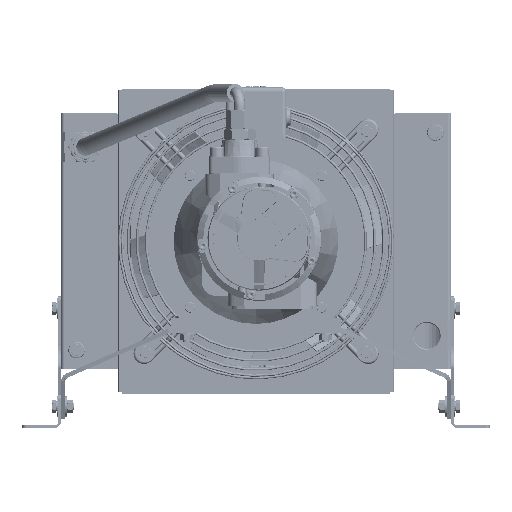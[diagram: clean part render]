
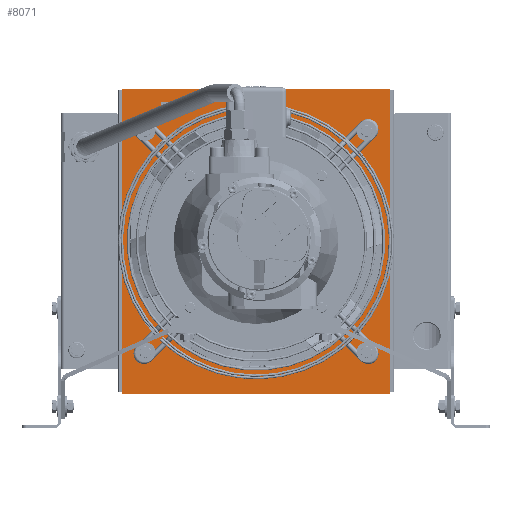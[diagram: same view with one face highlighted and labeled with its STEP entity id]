
A CAD part, front view. The second image highlights one B-rep face of the part: STEP entity #8071.
In plain terms, the highlighted planar face has unit normal (0, -1, 0) as drawn and (0, 0, -1) by its records, which use the part's own axes.
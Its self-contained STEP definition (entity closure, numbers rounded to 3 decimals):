
#8071 = ADVANCED_FACE( '', ( #16288, #16289, #16290, #16291, #16292, #16293 ), #16294, .F. );
#16288 = FACE_BOUND( '', #30516, .T. );
#16289 = FACE_BOUND( '', #30517, .T. );
#16290 = FACE_BOUND( '', #30518, .T. );
#16291 = FACE_BOUND( '', #30519, .T. );
#16292 = FACE_BOUND( '', #30520, .T. );
#16293 = FACE_OUTER_BOUND( '', #30521, .T. );
#16294 = PLANE( '', #30522 );
#30516 = EDGE_LOOP( '', ( #50690 ) );
#30517 = EDGE_LOOP( '', ( #50691 ) );
#30518 = EDGE_LOOP( '', ( #50692 ) );
#30519 = EDGE_LOOP( '', ( #50693 ) );
#30520 = EDGE_LOOP( '', ( #50694 ) );
#30521 = EDGE_LOOP( '', ( #50695, #50696, #50697, #50698 ) );
#30522 = AXIS2_PLACEMENT_3D( '', #50699, #50700, #50701 );
#50690 = ORIENTED_EDGE( '', *, *, #64775, .F. );
#50691 = ORIENTED_EDGE( '', *, *, #66036, .F. );
#50692 = ORIENTED_EDGE( '', *, *, #66037, .F. );
#50693 = ORIENTED_EDGE( '', *, *, #66038, .F. );
#50694 = ORIENTED_EDGE( '', *, *, #66039, .F. );
#50695 = ORIENTED_EDGE( '', *, *, #61526, .F. );
#50696 = ORIENTED_EDGE( '', *, *, #66040, .F. );
#50697 = ORIENTED_EDGE( '', *, *, #60911, .F. );
#50698 = ORIENTED_EDGE( '', *, *, #61063, .F. );
#50699 = CARTESIAN_POINT( '', ( -176., -155., 0. ) );
#50700 = DIRECTION( '', ( 0., 0., 1. ) );
#50701 = DIRECTION( '', ( 1., 0., 0. ) );
#60911 = EDGE_CURVE( '', #71153, #71154, #71155, .T. );
#61063 = EDGE_CURVE( '', #71406, #71153, #71408, .T. );
#61526 = EDGE_CURVE( '', #72169, #71406, #72170, .T. );
#64775 = EDGE_CURVE( '', #77086, #77086, #77087, .T. );
#66036 = EDGE_CURVE( '', #78745, #78745, #78746, .T. );
#66037 = EDGE_CURVE( '', #78747, #78747, #78748, .T. );
#66038 = EDGE_CURVE( '', #78749, #78749, #78750, .T. );
#66039 = EDGE_CURVE( '', #78751, #78751, #78752, .T. );
#66040 = EDGE_CURVE( '', #71154, #72169, #78753, .T. );
#71153 = VERTEX_POINT( '', #91390 );
#71154 = VERTEX_POINT( '', #91391 );
#71155 = LINE( '', #91392, #91393 );
#71406 = VERTEX_POINT( '', #92068 );
#71408 = LINE( '', #92071, #92072 );
#72169 = VERTEX_POINT( '', #94979 );
#72170 = LINE( '', #94980, #94981 );
#77086 = VERTEX_POINT( '', #112008 );
#77087 = CIRCLE( '', #112009, 5.25 );
#78745 = VERTEX_POINT( '', #118395 );
#78746 = CIRCLE( '', #118396, 5.25 );
#78747 = VERTEX_POINT( '', #118397 );
#78748 = CIRCLE( '', #118398, 5.25 );
#78749 = VERTEX_POINT( '', #118399 );
#78750 = CIRCLE( '', #118400, 5.25 );
#78751 = VERTEX_POINT( '', #118401 );
#78752 = CIRCLE( '', #118402, 147.5 );
#78753 = LINE( '', #118403, #118404 );
#91390 = CARTESIAN_POINT( '', ( 176., -155., 0. ) );
#91391 = CARTESIAN_POINT( '', ( 176., 155., 0. ) );
#91392 = CARTESIAN_POINT( '', ( 176., -155., 0. ) );
#91393 = VECTOR( '', #125080, 1000. );
#92068 = CARTESIAN_POINT( '', ( -176., -155., 0. ) );
#92071 = CARTESIAN_POINT( '', ( -176., -155., 0. ) );
#92072 = VECTOR( '', #125206, 1000. );
#94979 = CARTESIAN_POINT( '', ( -176., 155., 0. ) );
#94980 = CARTESIAN_POINT( '', ( -176., 155., 0. ) );
#94981 = VECTOR( '', #125541, 1000. );
#112008 = CARTESIAN_POINT( '', ( 122.383, -127.633, 0. ) );
#112009 = AXIS2_PLACEMENT_3D( '', #127825, #127826, #127827 );
#118395 = CARTESIAN_POINT( '', ( -132.883, -127.633, 0. ) );
#118396 = AXIS2_PLACEMENT_3D( '', #128538, #128539, #128540 );
#118397 = CARTESIAN_POINT( '', ( -132.883, 127.633, 0. ) );
#118398 = AXIS2_PLACEMENT_3D( '', #128541, #128542, #128543 );
#118399 = CARTESIAN_POINT( '', ( 122.383, 127.633, 0. ) );
#118400 = AXIS2_PLACEMENT_3D( '', #128544, #128545, #128546 );
#118401 = CARTESIAN_POINT( '', ( 0., 147.5, 0. ) );
#118402 = AXIS2_PLACEMENT_3D( '', #128547, #128548, #128549 );
#118403 = CARTESIAN_POINT( '', ( 176., 155., 0. ) );
#118404 = VECTOR( '', #128550, 1000. );
#125080 = DIRECTION( '', ( 0., 1., 0. ) );
#125206 = DIRECTION( '', ( 1., 0., 0. ) );
#125541 = DIRECTION( '', ( 0., -1., 0. ) );
#127825 = CARTESIAN_POINT( '', ( 127.633, -127.633, 0. ) );
#127826 = DIRECTION( '', ( 0., 0., -1. ) );
#127827 = DIRECTION( '', ( -1., 0., 0. ) );
#128538 = CARTESIAN_POINT( '', ( -127.633, -127.633, 0. ) );
#128539 = DIRECTION( '', ( 0., 0., -1. ) );
#128540 = DIRECTION( '', ( -1., 0., 0. ) );
#128541 = CARTESIAN_POINT( '', ( -127.633, 127.633, 0. ) );
#128542 = DIRECTION( '', ( 0., 0., -1. ) );
#128543 = DIRECTION( '', ( -1., 0., 0. ) );
#128544 = CARTESIAN_POINT( '', ( 127.633, 127.633, 0. ) );
#128545 = DIRECTION( '', ( 0., 0., -1. ) );
#128546 = DIRECTION( '', ( -1., 0., 0. ) );
#128547 = CARTESIAN_POINT( '', ( 0., 0., 0. ) );
#128548 = DIRECTION( '', ( 0., 0., -1. ) );
#128549 = DIRECTION( '', ( 0., 1., 0. ) );
#128550 = DIRECTION( '', ( -1., 0., 0. ) );
